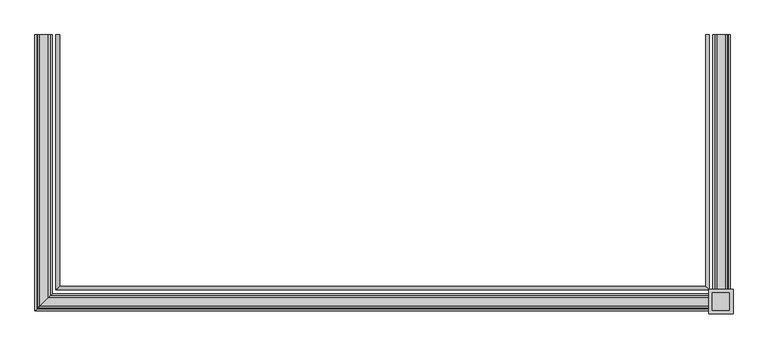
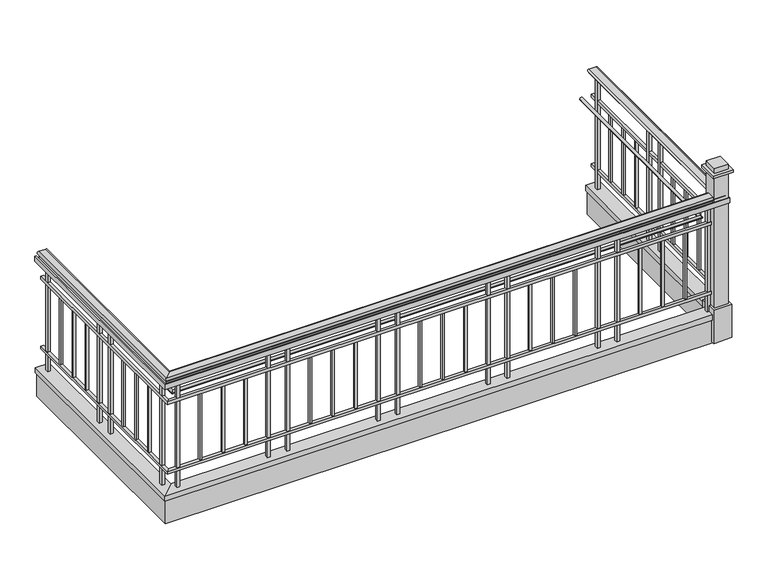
"""IFC4 building model written with IfcOpenShell, lengths in millimetres: railing geometry, Deco Type."""

from ifc_helpers import new_model, si_unit, frame, origin, place, context, project, spatial, polyline, circle_curve, ellipse_curve, outline, extrude, faceted_brep, source, transform, mapped, element, save
from ifc_brep_helpers import plane_surface, cylinder_surface, advanced_brep


def railing_172432e5(model_context):
    return source(origin(), model_context, "Body", "SolidModel", [
        advanced_brep(
        [(-11325.7002872, -7864.1661799, 7194.55), (-11325.7002872, -7864.1661799, 7172.3248415), (-11325.7002872, -7864.1661799, 7162.8), (-11389.0500398, -7864.1661799, 7162.8), (-11389.0500398, -7864.1661799, 7172.261629), (-11389.0500398, -7864.1661799, 7194.55), (-11325.7002872, -9707.4039273, 7194.55), (-11325.7002872, -9707.4039273, 7172.3248415), (-11325.7002872, -9707.4039273, 7162.8), (-11389.0500398, -9770.7536799, 7162.8), (-11389.0500398, -9770.7536799, 7172.261629), (-11389.0500398, -9770.7536799, 7194.55), (-6640.6872924, -9707.4039273, 7194.55), (-6640.6872924, -9707.4039273, 7172.3248415), (-6640.6872924, -9707.4039273, 7162.8), (-6577.3375398, -9770.7536799, 7162.8), (-6577.3375398, -9770.7536799, 7172.261629), (-6577.3375398, -9770.7536799, 7194.55), (-6640.6872924, -7864.1661799, 7194.55), (-6577.3375398, -7864.1661799, 7194.55), (-6577.3375398, -7864.1661799, 7172.261629), (-6577.3375398, -7864.1661799, 7162.8), (-6640.6872924, -7864.1661799, 7162.8), (-6640.6872924, -7864.1661799, 7172.3248415)],
        [
            (0, 1, circle_curve(frame((-11325.7002872, -7864.1661799, 7183.4374207), z_axis=(0.0, 1.0, 0.0), x_axis=(-1.0, 0.0, 0.0)), 11.1125793)),
            (1, 2),
            (2, 3),
            (3, 4),
            (4, 5, circle_curve(frame((-11389.0500398, -7864.1661799, 7183.4058145), z_axis=(0.0, 1.0, 0.0), x_axis=(-1.0, 0.0, 0.0)), 11.1441855)),
            (5, 0),
            (0, 6),
            (6, 7, ellipse_curve(frame((-11325.7002872, -9707.4039273, 7183.4374207), z_axis=(-0.7071067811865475, 0.7071067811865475, 0.0), x_axis=(0.7071067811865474, 0.7071067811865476, 0.0)), 15.7155603, 11.1125793)),
            (7, 1),
            (7, 8),
            (8, 2),
            (8, 9),
            (9, 3),
            (9, 10),
            (10, 4),
            (10, 11, ellipse_curve(frame((-11389.0500398, -9770.7536799, 7183.4058145), z_axis=(-0.7071067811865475, 0.7071067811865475, 0.0), x_axis=(0.7071067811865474, 0.7071067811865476, 0.0)), 15.7602583, 11.1441855)),
            (11, 5),
            (11, 6),
            (6, 12),
            (12, 13, ellipse_curve(frame((-6640.6872924, -9707.4039273, 7183.4374207), z_axis=(-0.7071067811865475, -0.7071067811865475, 0.0), x_axis=(-0.7071067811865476, 0.7071067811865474, 0.0)), 15.7155603, 11.1125793)),
            (13, 7),
            (13, 14),
            (14, 8),
            (14, 15),
            (15, 9),
            (15, 16),
            (16, 10),
            (16, 17, ellipse_curve(frame((-6577.3375398, -9770.7536799, 7183.4058145), z_axis=(-0.7071067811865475, -0.7071067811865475, 0.0), x_axis=(-0.7071067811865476, 0.7071067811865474, 0.0)), 15.7602583, 11.1441855)),
            (17, 11),
            (17, 12),
            (18, 19),
            (19, 20, circle_curve(frame((-6577.3375398, -7864.1661799, 7183.4058145), z_axis=(0.0, 1.0, 0.0), x_axis=(1.0, 0.0, 0.0)), 11.1441855)),
            (20, 21),
            (21, 22),
            (22, 23),
            (23, 18, circle_curve(frame((-6640.6872924, -7864.1661799, 7183.4374207), z_axis=(0.0, 1.0, 0.0), x_axis=(1.0, 0.0, 0.0)), 11.1125793)),
            (12, 18),
            (23, 13),
            (22, 14),
            (21, 15),
            (20, 16),
            (19, 17),
        ],
        [
            plane_surface(frame((-11357.3000398, -7864.1661799, 7162.8), z_axis=(0.0, 1.0, 0.0), x_axis=(0.0, 0.0, -1.0))),
            cylinder_surface(frame((-11325.7002872, -7864.1661799, 7183.4374207), z_axis=(0.0, 1.0, 0.0), x_axis=(-1.0, 0.0, 0.0)), 11.1125793),
            plane_surface(frame((-11325.7002872, -7864.1661799, 7172.3248415), z_axis=(1.0, 0.0, 0.0), x_axis=(0.0, -1.0, 0.0))),
            plane_surface(frame((-11325.7002872, -7864.1661799, 7162.8), z_axis=(0.0, 0.0, -1.0), x_axis=(0.0, -1.0, 0.0))),
            plane_surface(frame((-11389.0500398, -7864.1661799, 7162.8), z_axis=(-1.0, 0.0, 0.0), x_axis=(0.0, -1.0, 0.0))),
            cylinder_surface(frame((-11389.0500398, -7864.1661799, 7183.4058145), z_axis=(0.0, 1.0, 0.0), x_axis=(-1.0, 0.0, 0.0)), 11.1441855),
            plane_surface(frame((-11389.0500398, -7864.1661799, 7194.55), z_axis=(0.0, 0.0, 1.0), x_axis=(0.0, -1.0, 0.0))),
            cylinder_surface(frame((-11357.3000398, -9707.4039273, 7183.4374207), z_axis=(-1.0, 0.0, 0.0), x_axis=(0.0, -1.0, 0.0)), 11.1125793),
            plane_surface(frame((-11325.7002872, -9707.4039273, 7172.3248415), z_axis=(0.0, 1.0, 0.0), x_axis=(1.0, 0.0, 0.0))),
            plane_surface(frame((-11325.7002872, -9707.4039273, 7162.8), z_axis=(0.0, 0.0, -1.0), x_axis=(1.0, 0.0, 0.0))),
            plane_surface(frame((-11389.0500398, -9770.7536799, 7162.8), z_axis=(0.0, -1.0, 0.0), x_axis=(1.0, 0.0, 0.0))),
            cylinder_surface(frame((-11357.3000398, -9770.7536799, 7183.4058145), z_axis=(-1.0, 0.0, 0.0), x_axis=(0.0, -1.0, 0.0)), 11.1441855),
            plane_surface(frame((-11389.0500398, -9770.7536799, 7194.55), z_axis=(0.0, 0.0, 1.0), x_axis=(1.0, 0.0, 0.0))),
            plane_surface(frame((-6609.0875398, -7864.1661799, 7162.8), z_axis=(0.0, 1.0, 0.0), x_axis=(0.0, 0.0, 1.0))),
            cylinder_surface(frame((-6640.6872924, -9739.0036799, 7183.4374207), z_axis=(0.0, -1.0, 0.0), x_axis=(1.0, 0.0, 0.0)), 11.1125793),
            plane_surface(frame((-6640.6872924, -9707.4039273, 7172.3248415), z_axis=(-1.0, 0.0, 0.0), x_axis=(0.0, 1.0, 0.0))),
            plane_surface(frame((-6640.6872924, -9707.4039273, 7162.8), z_axis=(0.0, 0.0, -1.0), x_axis=(0.0, 1.0, 0.0))),
            plane_surface(frame((-6577.3375398, -9770.7536799, 7162.8), z_axis=(1.0, 0.0, 0.0), x_axis=(0.0, 1.0, 0.0))),
            cylinder_surface(frame((-6577.3375398, -9739.0036799, 7183.4058145), z_axis=(0.0, -1.0, 0.0), x_axis=(1.0, 0.0, 0.0)), 11.1441855),
            plane_surface(frame((-6577.3375398, -9770.7536799, 7194.55), z_axis=(0.0, 0.0, 1.0), x_axis=(0.0, 1.0, 0.0))),
        ],
        [
            (0, [[1, 2, 3, 4, 5, 6]]),
            (1, [[-1, 7, 8, 9]]),
            (2, [[-2, -9, 10, 11]]),
            (3, [[-3, -11, 12, 13]]),
            (4, [[-4, -13, 14, 15]]),
            (5, [[-5, -15, 16, 17]]),
            (6, [[-6, -17, 18, -7]]),
            (7, [[-8, 19, 20, 21]]),
            (8, [[-10, -21, 22, 23]]),
            (9, [[-12, -23, 24, 25]]),
            (10, [[-14, -25, 26, 27]]),
            (11, [[-16, -27, 28, 29]]),
            (12, [[-18, -29, 30, -19]]),
            (13, [[31, 32, 33, 34, 35, 36]]),
            (14, [[-20, 37, -36, 38]]),
            (15, [[-22, -38, -35, 39]]),
            (16, [[-24, -39, -34, 40]]),
            (17, [[-26, -40, -33, 41]]),
            (18, [[-28, -41, -32, 42]]),
            (19, [[-30, -42, -31, -37]]),
        ],
    ),
        faceted_brep([(-11382.7751635, -7864.1661799, 7162.8), (-11370.0751635, -7864.1661799, 7162.8), (-11370.0751635, -7864.1661799, 7118.35), (-11382.7751635, -7864.1661799, 7118.35), (-11382.7751635, -9764.4788036, 7162.8), (-11370.0751635, -9751.7788036, 7162.8), (-11370.0751635, -9751.7788036, 7118.35), (-11382.7751635, -9764.4788036, 7118.35), (-6583.6124161, -9764.4788036, 7162.8), (-6596.3124161, -9751.7788036, 7162.8), (-6596.3124161, -9751.7788036, 7118.35), (-6583.6124161, -9764.4788036, 7118.35), (-6583.6124161, -7864.1661799, 7162.8), (-6583.6124161, -7864.1661799, 7118.35), (-6596.3124161, -7864.1661799, 7118.35), (-6596.3124161, -7864.1661799, 7162.8)], [[[0, 1, 2, 3]], [[1, 0, 4, 5]], [[2, 1, 5, 6]], [[3, 2, 6, 7]], [[0, 3, 7, 4]], [[5, 4, 8, 9]], [[6, 5, 9, 10]], [[7, 6, 10, 11]], [[4, 7, 11, 8]], [[12, 13, 14, 15]], [[9, 8, 12, 15]], [[10, 9, 15, 14]], [[11, 10, 14, 13]], [[8, 11, 13, 12]]]),
        faceted_brep([(-11420.8751635, -7864.1661799, 7162.8), (-11408.1751635, -7864.1661799, 7162.8), (-11408.1751635, -7864.1661799, 7118.35), (-11420.8751635, -7864.1661799, 7118.35), (-11420.8751635, -9802.5788036, 7162.8), (-11408.1751635, -9789.8788036, 7162.8), (-11408.1751635, -9789.8788036, 7118.35), (-11420.8751635, -9802.5788036, 7118.35), (-6545.5124161, -9802.5788036, 7162.8), (-6558.2124161, -9789.8788036, 7162.8), (-6558.2124161, -9789.8788036, 7118.35), (-6545.5124161, -9802.5788036, 7118.35), (-6545.5124161, -7864.1661799, 7162.8), (-6545.5124161, -7864.1661799, 7118.35), (-6558.2124161, -7864.1661799, 7118.35), (-6558.2124161, -7864.1661799, 7162.8)], [[[0, 1, 2, 3]], [[1, 0, 4, 5]], [[2, 1, 5, 6]], [[3, 2, 6, 7]], [[0, 3, 7, 4]], [[5, 4, 8, 9]], [[6, 5, 9, 10]], [[7, 6, 10, 11]], [[4, 7, 11, 8]], [[12, 13, 14, 15]], [[9, 8, 12, 15]], [[10, 9, 15, 14]], [[11, 10, 14, 13]], [[8, 11, 13, 12]]]),
        faceted_brep([(-11370.0000398, -7864.1661799, 6959.6), (-11344.6000398, -7864.1661799, 6959.6), (-11344.6000398, -7864.1661799, 6934.2), (-11370.0000398, -7864.1661799, 6934.2), (-11370.0000398, -9751.7036799, 6959.6), (-11344.6000398, -9726.3036799, 6959.6), (-11344.6000398, -9726.3036799, 6934.2), (-11370.0000398, -9751.7036799, 6934.2), (-6596.3875398, -9751.7036799, 6959.6), (-6621.7875398, -9726.3036799, 6959.6), (-6621.7875398, -9726.3036799, 6934.2), (-6596.3875398, -9751.7036799, 6934.2), (-6596.3875398, -7864.1661799, 6959.6), (-6596.3875398, -7864.1661799, 6934.2), (-6621.7875398, -7864.1661799, 6934.2), (-6621.7875398, -7864.1661799, 6959.6)], [[[0, 1, 2, 3]], [[1, 0, 4, 5]], [[2, 1, 5, 6]], [[3, 2, 6, 7]], [[0, 3, 7, 4]], [[5, 4, 8, 9]], [[6, 5, 9, 10]], [[7, 6, 10, 11]], [[4, 7, 11, 8]], [[12, 13, 14, 15]], [[9, 8, 12, 15]], [[10, 9, 15, 14]], [[11, 10, 14, 13]], [[8, 11, 13, 12]]]),
        advanced_brep(
        [(-11247.7625398, -7864.1661799, 6946.9), (-11273.1625398, -7864.1661799, 6946.9), (-11247.7625398, -9629.4661799, 6946.9), (-11273.1625398, -9654.8661799, 6946.9), (-6718.6250398, -9629.4661799, 6946.9), (-6693.2250398, -9654.8661799, 6946.9), (-6718.6250398, -7864.1661799, 6946.9), (-6693.2250398, -7864.1661799, 6946.9)],
        [
            (0, 1, circle_curve(frame((-11260.4625398, -7864.1661799, 6946.9), z_axis=(0.0, 1.0, 0.0), x_axis=(-1.0, 0.0, 0.0)), 12.7)),
            (1, 0, circle_curve(frame((-11260.4625398, -7864.1661799, 6946.9), z_axis=(0.0, 1.0, 0.0), x_axis=(-1.0, 0.0, 0.0)), 12.7)),
            (0, 2),
            (2, 3, ellipse_curve(frame((-11260.4625398, -9642.1661799, 6946.9), z_axis=(-0.7071067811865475, 0.7071067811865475, 0.0), x_axis=(0.7071067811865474, 0.7071067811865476, 0.0)), 17.9605122, 12.7)),
            (3, 1),
            (3, 2, ellipse_curve(frame((-11260.4625398, -9642.1661799, 6946.9), z_axis=(-0.7071067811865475, 0.7071067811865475, 0.0), x_axis=(0.7071067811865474, 0.7071067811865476, 0.0)), 17.9605122, 12.7)),
            (2, 4),
            (4, 5, ellipse_curve(frame((-6705.9250398, -9642.1661799, 6946.9), z_axis=(-0.7071067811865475, -0.7071067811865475, 0.0), x_axis=(-0.7071067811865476, 0.7071067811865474, 0.0)), 17.9605122, 12.7)),
            (5, 3),
            (5, 4, ellipse_curve(frame((-6705.9250398, -9642.1661799, 6946.9), z_axis=(-0.7071067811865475, -0.7071067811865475, 0.0), x_axis=(-0.7071067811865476, 0.7071067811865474, 0.0)), 17.9605122, 12.7)),
            (6, 7, circle_curve(frame((-6705.9250398, -7864.1661799, 6946.9), z_axis=(0.0, 1.0, 0.0), x_axis=(1.0, 0.0, 0.0)), 12.7)),
            (7, 6, circle_curve(frame((-6705.9250398, -7864.1661799, 6946.9), z_axis=(0.0, 1.0, 0.0), x_axis=(1.0, 0.0, 0.0)), 12.7)),
            (4, 6),
            (7, 5),
        ],
        [
            plane_surface(frame((-11260.4625398, -7864.1661799, 6946.9), z_axis=(0.0, 1.0, 0.0), x_axis=(0.0, 0.0, -1.0))),
            cylinder_surface(frame((-11260.4625398, -7864.1661799, 6946.9), z_axis=(0.0, 1.0, 0.0), x_axis=(-1.0, 0.0, 0.0)), 12.7),
            cylinder_surface(frame((-11260.4625398, -9642.1661799, 6946.9), z_axis=(-1.0, 0.0, 0.0), x_axis=(0.0, -1.0, 0.0)), 12.7),
            plane_surface(frame((-6705.9250398, -7864.1661799, 6946.9), z_axis=(0.0, 1.0, 0.0), x_axis=(0.0, 0.0, 1.0))),
            cylinder_surface(frame((-6705.9250398, -9642.1661799, 6946.9), z_axis=(0.0, -1.0, 0.0), x_axis=(1.0, 0.0, 0.0)), 12.7),
        ],
        [
            (0, [[1, 2]]),
            (1, [[-1, 3, 4, 5]]),
            (1, [[-2, -5, 6, -3]]),
            (2, [[-4, 7, 8, 9]]),
            (2, [[-6, -9, 10, -7]]),
            (3, [[11, 12]]),
            (4, [[-8, 13, -12, 14]]),
            (4, [[-10, -14, -11, -13]]),
        ],
    ),
        faceted_brep([(-11370.0000398, -7864.1661799, 6324.6), (-11344.6000398, -7864.1661799, 6324.6), (-11344.6000398, -7864.1661799, 6299.2), (-11370.0000398, -7864.1661799, 6299.2), (-11370.0000398, -9751.7036799, 6324.6), (-11344.6000398, -9726.3036799, 6324.6), (-11344.6000398, -9726.3036799, 6299.2), (-11370.0000398, -9751.7036799, 6299.2), (-6596.3875398, -9751.7036799, 6324.6), (-6621.7875398, -9726.3036799, 6324.6), (-6621.7875398, -9726.3036799, 6299.2), (-6596.3875398, -9751.7036799, 6299.2), (-6596.3875398, -7864.1661799, 6324.6), (-6596.3875398, -7864.1661799, 6299.2), (-6621.7875398, -7864.1661799, 6299.2), (-6621.7875398, -7864.1661799, 6324.6)], [[[0, 1, 2, 3]], [[1, 0, 4, 5]], [[2, 1, 5, 6]], [[3, 2, 6, 7]], [[0, 3, 7, 4]], [[5, 4, 8, 9]], [[6, 5, 9, 10]], [[7, 6, 10, 11]], [[4, 7, 11, 8]], [[12, 13, 14, 15]], [[9, 8, 12, 15]], [[10, 9, 15, 14]], [[11, 10, 14, 13]], [[8, 11, 13, 12]]]),
        faceted_brep([(-11298.6376635, -7864.1661799, 6145.0362864), (-11298.6376635, -7864.1661799, 6096.0), (-11311.3376635, -7864.1661799, 6096.0), (-11311.3376635, -7864.1661799, 6132.3362864), (-11403.4126635, -7864.1661799, 6132.3362864), (-11403.4126635, -7864.1661799, 6096.0), (-11416.1126635, -7864.1661799, 6096.0), (-11416.1126635, -7864.1661799, 6145.0362864), (-11298.6376635, -9680.3413036, 6145.0362864), (-11298.6376635, -9680.3413036, 6096.0), (-11311.3376635, -9693.0413036, 6096.0), (-11311.3376635, -9693.0413036, 6132.3362864), (-11403.4126635, -9785.1163036, 6132.3362864), (-11403.4126635, -9785.1163036, 6096.0), (-11416.1126635, -9797.8163036, 6096.0), (-11416.1126635, -9797.8163036, 6145.0362864), (-6667.7499161, -9680.3413036, 6145.0362864), (-6667.7499161, -9680.3413036, 6096.0), (-6655.0499161, -9693.0413036, 6096.0), (-6655.0499161, -9693.0413036, 6132.3362864), (-6562.9749161, -9785.1163036, 6132.3362864), (-6562.9749161, -9785.1163036, 6096.0), (-6550.2749161, -9797.8163036, 6096.0), (-6550.2749161, -9797.8163036, 6145.0362864), (-6667.7499161, -7864.1661799, 6145.0362864), (-6550.2749161, -7864.1661799, 6145.0362864), (-6550.2749161, -7864.1661799, 6096.0), (-6562.9749161, -7864.1661799, 6096.0), (-6562.9749161, -7864.1661799, 6132.3362864), (-6655.0499161, -7864.1661799, 6132.3362864), (-6655.0499161, -7864.1661799, 6096.0), (-6667.7499161, -7864.1661799, 6096.0)], [[[0, 1, 2, 3, 4, 5, 6, 7]], [[1, 0, 8, 9]], [[2, 1, 9, 10]], [[3, 2, 10, 11]], [[4, 3, 11, 12]], [[5, 4, 12, 13]], [[6, 5, 13, 14]], [[7, 6, 14, 15]], [[0, 7, 15, 8]], [[9, 8, 16, 17]], [[10, 9, 17, 18]], [[11, 10, 18, 19]], [[12, 11, 19, 20]], [[13, 12, 20, 21]], [[14, 13, 21, 22]], [[15, 14, 22, 23]], [[8, 15, 23, 16]], [[24, 25, 26, 27, 28, 29, 30, 31]], [[17, 16, 24, 31]], [[18, 17, 31, 30]], [[19, 18, 30, 29]], [[20, 19, 29, 28]], [[21, 20, 28, 27]], [[22, 21, 27, 26]], [[23, 22, 26, 25]], [[16, 23, 25, 24]]]),
        faceted_brep([(-11311.3376635, -7864.1661799, 6132.3362864), (-11311.3376635, -7864.1661799, 5878.3362864), (-11403.4126635, -7864.1661799, 5878.3362864), (-11403.4126635, -7864.1661799, 6132.3362864), (-11311.3376635, -9693.0413036, 6132.3362864), (-11311.3376635, -9693.0413036, 5878.3362864), (-11403.4126635, -9785.1163036, 5878.3362864), (-11403.4126635, -9785.1163036, 6132.3362864), (-6655.0499161, -9693.0413036, 6132.3362864), (-6655.0499161, -9693.0413036, 5878.3362864), (-6562.9749161, -9785.1163036, 5878.3362864), (-6562.9749161, -9785.1163036, 6132.3362864), (-6655.0499161, -7864.1661799, 6132.3362864), (-6562.9749161, -7864.1661799, 6132.3362864), (-6562.9749161, -7864.1661799, 5878.3362864), (-6655.0499161, -7864.1661799, 5878.3362864)], [[[0, 1, 2, 3]], [[1, 0, 4, 5]], [[2, 1, 5, 6]], [[3, 2, 6, 7]], [[0, 3, 7, 4]], [[5, 4, 8, 9]], [[6, 5, 9, 10]], [[7, 6, 10, 11]], [[4, 7, 11, 8]], [[12, 13, 14, 15]], [[9, 8, 12, 15]], [[10, 9, 15, 14]], [[11, 10, 14, 13]], [[8, 11, 13, 12]]]),
        extrude(outline(polyline([(-6599.1656648, -7959.4570347), (-6624.5656648, -7959.4570347), (-6624.5656648, -7934.0570347), (-6599.1656648, -7934.0570347), (-6599.1656648, -7959.4570347)])), frame((0.0, 0.0, 6145.0362864), z_axis=(0.0, 0.0, 1.0), x_axis=(1.0, 0.0, 0.0)), (0.0, 0.0, 1.0), 1017.7637136),
        extrude(outline(polyline([(-6602.3406648, -8148.9940292), (-6621.3906648, -8148.9940292), (-6621.3906648, -8129.9440292), (-6602.3406648, -8129.9440292), (-6602.3406648, -8148.9940292)])), frame((0.0, 0.0, 6324.6), z_axis=(0.0, 0.0, 1.0), x_axis=(1.0, 0.0, 0.0)), (0.0, 0.0, 1.0), 609.6),
        extrude(outline(polyline([(-6602.3406648, -8341.7060237), (-6621.3906648, -8341.7060237), (-6621.3906648, -8322.6560237), (-6602.3406648, -8322.6560237), (-6602.3406648, -8341.7060237)])), frame((0.0, 0.0, 6324.6), z_axis=(0.0, 0.0, 1.0), x_axis=(1.0, 0.0, 0.0)), (0.0, 0.0, 1.0), 609.6),
        extrude(outline(polyline([(-6602.3406648, -8534.4180182), (-6621.3906648, -8534.4180182), (-6621.3906648, -8515.3680182), (-6602.3406648, -8515.3680182), (-6602.3406648, -8534.4180182)])), frame((0.0, 0.0, 6324.6), z_axis=(0.0, 0.0, 1.0), x_axis=(1.0, 0.0, 0.0)), (0.0, 0.0, 1.0), 609.6),
        extrude(outline(polyline([(-6599.1656648, -8730.3050126), (-6624.5656648, -8730.3050126), (-6624.5656648, -8704.9050126), (-6599.1656648, -8704.9050126), (-6599.1656648, -8730.3050126)])), frame((0.0, 0.0, 6145.0362864), z_axis=(0.0, 0.0, 1.0), x_axis=(1.0, 0.0, 0.0)), (0.0, 0.0, 1.0), 1017.7637136),
        extrude(outline(polyline([(-6599.1656648, -8895.4867222), (-6624.5656648, -8895.4867222), (-6624.5656648, -8870.0867222), (-6599.1656648, -8870.0867222), (-6599.1656648, -8895.4867222)])), frame((0.0, 0.0, 6145.0362864), z_axis=(0.0, 0.0, 1.0), x_axis=(1.0, 0.0, 0.0)), (0.0, 0.0, 1.0), 1017.7637136),
        extrude(outline(polyline([(-6602.3406648, -9085.0237167), (-6621.3906648, -9085.0237167), (-6621.3906648, -9065.9737167), (-6602.3406648, -9065.9737167), (-6602.3406648, -9085.0237167)])), frame((0.0, 0.0, 6324.6), z_axis=(0.0, 0.0, 1.0), x_axis=(1.0, 0.0, 0.0)), (0.0, 0.0, 1.0), 609.6),
        extrude(outline(polyline([(-6602.3406648, -9277.7357112), (-6621.3906648, -9277.7357112), (-6621.3906648, -9258.6857112), (-6602.3406648, -9258.6857112), (-6602.3406648, -9277.7357112)])), frame((0.0, 0.0, 6324.6), z_axis=(0.0, 0.0, 1.0), x_axis=(1.0, 0.0, 0.0)), (0.0, 0.0, 1.0), 609.6),
        extrude(outline(polyline([(-6602.3406648, -9470.4477057), (-6621.3906648, -9470.4477057), (-6621.3906648, -9451.3977057), (-6602.3406648, -9451.3977057), (-6602.3406648, -9470.4477057)])), frame((0.0, 0.0, 6324.6), z_axis=(0.0, 0.0, 1.0), x_axis=(1.0, 0.0, 0.0)), (0.0, 0.0, 1.0), 609.6),
        extrude(outline(polyline([(-6599.1656648, -9666.3347001), (-6624.5656648, -9666.3347001), (-6624.5656648, -9640.9347001), (-6599.1656648, -9640.9347001), (-6599.1656648, -9666.3347001)])), frame((0.0, 0.0, 6145.0362864), z_axis=(0.0, 0.0, 1.0), x_axis=(1.0, 0.0, 0.0)), (0.0, 0.0, 1.0), 1017.7637136),
        extrude(outline(polyline([(-6708.2595986, -9748.9255549), (-6708.2595986, -9723.5255549), (-6682.8595986, -9723.5255549), (-6682.8595986, -9748.9255549), (-6708.2595986, -9748.9255549)])), frame((0.0, 0.0, 6145.0362864), z_axis=(0.0, 0.0, 1.0), x_axis=(1.0, 0.0, 0.0)), (0.0, 0.0, 1.0), 1017.7637136),
        extrude(outline(polyline([(-6900.3704442, -9745.7505549), (-6900.3704442, -9726.7005549), (-6881.3204442, -9726.7005549), (-6881.3204442, -9745.7505549), (-6900.3704442, -9745.7505549)])), frame((0.0, 0.0, 6324.6), z_axis=(0.0, 0.0, 1.0), x_axis=(1.0, 0.0, 0.0)), (0.0, 0.0, 1.0), 609.6),
        extrude(outline(polyline([(-7095.6562898, -9745.7505549), (-7095.6562898, -9726.7005549), (-7076.6062898, -9726.7005549), (-7076.6062898, -9745.7505549), (-7095.6562898, -9745.7505549)])), frame((0.0, 0.0, 6324.6), z_axis=(0.0, 0.0, 1.0), x_axis=(1.0, 0.0, 0.0)), (0.0, 0.0, 1.0), 609.6),
        extrude(outline(polyline([(-7290.9421354, -9745.7505549), (-7290.9421354, -9726.7005549), (-7271.8921354, -9726.7005549), (-7271.8921354, -9745.7505549), (-7290.9421354, -9745.7505549)])), frame((0.0, 0.0, 6324.6), z_axis=(0.0, 0.0, 1.0), x_axis=(1.0, 0.0, 0.0)), (0.0, 0.0, 1.0), 609.6),
        extrude(outline(polyline([(-7489.402981, -9748.9255549), (-7489.402981, -9723.5255549), (-7464.002981, -9723.5255549), (-7464.002981, -9748.9255549), (-7489.402981, -9748.9255549)])), frame((0.0, 0.0, 6145.0362864), z_axis=(0.0, 0.0, 1.0), x_axis=(1.0, 0.0, 0.0)), (0.0, 0.0, 1.0), 1017.7637136),
        extrude(outline(polyline([(-7656.7908486, -9748.9255549), (-7656.7908486, -9723.5255549), (-7631.3908486, -9723.5255549), (-7631.3908486, -9748.9255549), (-7656.7908486, -9748.9255549)])), frame((0.0, 0.0, 6145.0362864), z_axis=(0.0, 0.0, 1.0), x_axis=(1.0, 0.0, 0.0)), (0.0, 0.0, 1.0), 1017.7637136),
        extrude(outline(polyline([(-7848.9016942, -9745.7505549), (-7848.9016942, -9726.7005549), (-7829.8516942, -9726.7005549), (-7829.8516942, -9745.7505549), (-7848.9016942, -9745.7505549)])), frame((0.0, 0.0, 6324.6), z_axis=(0.0, 0.0, 1.0), x_axis=(1.0, 0.0, 0.0)), (0.0, 0.0, 1.0), 609.6),
        extrude(outline(polyline([(-8044.1875398, -9745.7505549), (-8044.1875398, -9726.7005549), (-8025.1375398, -9726.7005549), (-8025.1375398, -9745.7505549), (-8044.1875398, -9745.7505549)])), frame((0.0, 0.0, 6324.6), z_axis=(0.0, 0.0, 1.0), x_axis=(1.0, 0.0, 0.0)), (0.0, 0.0, 1.0), 609.6),
        extrude(outline(polyline([(-8239.4733854, -9745.7505549), (-8239.4733854, -9726.7005549), (-8220.4233854, -9726.7005549), (-8220.4233854, -9745.7505549), (-8239.4733854, -9745.7505549)])), frame((0.0, 0.0, 6324.6), z_axis=(0.0, 0.0, 1.0), x_axis=(1.0, 0.0, 0.0)), (0.0, 0.0, 1.0), 609.6),
        extrude(outline(polyline([(-8437.934231, -9748.9255549), (-8437.934231, -9723.5255549), (-8412.534231, -9723.5255549), (-8412.534231, -9748.9255549), (-8437.934231, -9748.9255549)])), frame((0.0, 0.0, 6145.0362864), z_axis=(0.0, 0.0, 1.0), x_axis=(1.0, 0.0, 0.0)), (0.0, 0.0, 1.0), 1017.7637136),
        extrude(outline(polyline([(-8605.3220986, -9748.9255549), (-8605.3220986, -9723.5255549), (-8579.9220986, -9723.5255549), (-8579.9220986, -9748.9255549), (-8605.3220986, -9748.9255549)])), frame((0.0, 0.0, 6145.0362864), z_axis=(0.0, 0.0, 1.0), x_axis=(1.0, 0.0, 0.0)), (0.0, 0.0, 1.0), 1017.7637136),
        extrude(outline(polyline([(-8797.4329442, -9745.7505549), (-8797.4329442, -9726.7005549), (-8778.3829442, -9726.7005549), (-8778.3829442, -9745.7505549), (-8797.4329442, -9745.7505549)])), frame((0.0, 0.0, 6324.6), z_axis=(0.0, 0.0, 1.0), x_axis=(1.0, 0.0, 0.0)), (0.0, 0.0, 1.0), 609.6),
        extrude(outline(polyline([(-8992.7187898, -9745.7505549), (-8992.7187898, -9726.7005549), (-8973.6687898, -9726.7005549), (-8973.6687898, -9745.7505549), (-8992.7187898, -9745.7505549)])), frame((0.0, 0.0, 6324.6), z_axis=(0.0, 0.0, 1.0), x_axis=(1.0, 0.0, 0.0)), (0.0, 0.0, 1.0), 609.6),
        extrude(outline(polyline([(-9188.0046354, -9745.7505549), (-9188.0046354, -9726.7005549), (-9168.9546354, -9726.7005549), (-9168.9546354, -9745.7505549), (-9188.0046354, -9745.7505549)])), frame((0.0, 0.0, 6324.6), z_axis=(0.0, 0.0, 1.0), x_axis=(1.0, 0.0, 0.0)), (0.0, 0.0, 1.0), 609.6),
        extrude(outline(polyline([(-9386.465481, -9748.9255549), (-9386.465481, -9723.5255549), (-9361.065481, -9723.5255549), (-9361.065481, -9748.9255549), (-9386.465481, -9748.9255549)])), frame((0.0, 0.0, 6145.0362864), z_axis=(0.0, 0.0, 1.0), x_axis=(1.0, 0.0, 0.0)), (0.0, 0.0, 1.0), 1017.7637136),
        extrude(outline(polyline([(-9553.8533486, -9748.9255549), (-9553.8533486, -9723.5255549), (-9528.4533486, -9723.5255549), (-9528.4533486, -9748.9255549), (-9553.8533486, -9748.9255549)])), frame((0.0, 0.0, 6145.0362864), z_axis=(0.0, 0.0, 1.0), x_axis=(1.0, 0.0, 0.0)), (0.0, 0.0, 1.0), 1017.7637136),
        extrude(outline(polyline([(-9745.9641942, -9745.7505549), (-9745.9641942, -9726.7005549), (-9726.9141942, -9726.7005549), (-9726.9141942, -9745.7505549), (-9745.9641942, -9745.7505549)])), frame((0.0, 0.0, 6324.6), z_axis=(0.0, 0.0, 1.0), x_axis=(1.0, 0.0, 0.0)), (0.0, 0.0, 1.0), 609.6),
        extrude(outline(polyline([(-9941.2500398, -9745.7505549), (-9941.2500398, -9726.7005549), (-9922.2000398, -9726.7005549), (-9922.2000398, -9745.7505549), (-9941.2500398, -9745.7505549)])), frame((0.0, 0.0, 6324.6), z_axis=(0.0, 0.0, 1.0), x_axis=(1.0, 0.0, 0.0)), (0.0, 0.0, 1.0), 609.6),
        extrude(outline(polyline([(-10136.5358854, -9745.7505549), (-10136.5358854, -9726.7005549), (-10117.4858854, -9726.7005549), (-10117.4858854, -9745.7505549), (-10136.5358854, -9745.7505549)])), frame((0.0, 0.0, 6324.6), z_axis=(0.0, 0.0, 1.0), x_axis=(1.0, 0.0, 0.0)), (0.0, 0.0, 1.0), 609.6),
        extrude(outline(polyline([(-10334.996731, -9748.9255549), (-10334.996731, -9723.5255549), (-10309.596731, -9723.5255549), (-10309.596731, -9748.9255549), (-10334.996731, -9748.9255549)])), frame((0.0, 0.0, 6145.0362864), z_axis=(0.0, 0.0, 1.0), x_axis=(1.0, 0.0, 0.0)), (0.0, 0.0, 1.0), 1017.7637136),
        extrude(outline(polyline([(-10502.3845986, -9748.9255549), (-10502.3845986, -9723.5255549), (-10476.9845986, -9723.5255549), (-10476.9845986, -9748.9255549), (-10502.3845986, -9748.9255549)])), frame((0.0, 0.0, 6145.0362864), z_axis=(0.0, 0.0, 1.0), x_axis=(1.0, 0.0, 0.0)), (0.0, 0.0, 1.0), 1017.7637136),
        extrude(outline(polyline([(-10694.4954442, -9745.7505549), (-10694.4954442, -9726.7005549), (-10675.4454442, -9726.7005549), (-10675.4454442, -9745.7505549), (-10694.4954442, -9745.7505549)])), frame((0.0, 0.0, 6324.6), z_axis=(0.0, 0.0, 1.0), x_axis=(1.0, 0.0, 0.0)), (0.0, 0.0, 1.0), 609.6),
        extrude(outline(polyline([(-10889.7812898, -9745.7505549), (-10889.7812898, -9726.7005549), (-10870.7312898, -9726.7005549), (-10870.7312898, -9745.7505549), (-10889.7812898, -9745.7505549)])), frame((0.0, 0.0, 6324.6), z_axis=(0.0, 0.0, 1.0), x_axis=(1.0, 0.0, 0.0)), (0.0, 0.0, 1.0), 609.6),
        extrude(outline(polyline([(-11085.0671354, -9745.7505549), (-11085.0671354, -9726.7005549), (-11066.0171354, -9726.7005549), (-11066.0171354, -9745.7505549), (-11085.0671354, -9745.7505549)])), frame((0.0, 0.0, 6324.6), z_axis=(0.0, 0.0, 1.0), x_axis=(1.0, 0.0, 0.0)), (0.0, 0.0, 1.0), 609.6),
        extrude(outline(polyline([(-11283.527981, -9748.9255549), (-11283.527981, -9723.5255549), (-11258.127981, -9723.5255549), (-11258.127981, -9748.9255549), (-11283.527981, -9748.9255549)])), frame((0.0, 0.0, 6145.0362864), z_axis=(0.0, 0.0, 1.0), x_axis=(1.0, 0.0, 0.0)), (0.0, 0.0, 1.0), 1017.7637136),
        extrude(outline(polyline([(-11367.2219148, -9640.9347001), (-11341.8219148, -9640.9347001), (-11341.8219148, -9666.3347001), (-11367.2219148, -9666.3347001), (-11367.2219148, -9640.9347001)])), frame((0.0, 0.0, 6145.0362864), z_axis=(0.0, 0.0, 1.0), x_axis=(1.0, 0.0, 0.0)), (0.0, 0.0, 1.0), 1017.7637136),
        extrude(outline(polyline([(-11364.0469148, -9451.3977057), (-11344.9969148, -9451.3977057), (-11344.9969148, -9470.4477057), (-11364.0469148, -9470.4477057), (-11364.0469148, -9451.3977057)])), frame((0.0, 0.0, 6324.6), z_axis=(0.0, 0.0, 1.0), x_axis=(1.0, 0.0, 0.0)), (0.0, 0.0, 1.0), 609.6),
        extrude(outline(polyline([(-11364.0469148, -9258.6857112), (-11344.9969148, -9258.6857112), (-11344.9969148, -9277.7357112), (-11364.0469148, -9277.7357112), (-11364.0469148, -9258.6857112)])), frame((0.0, 0.0, 6324.6), z_axis=(0.0, 0.0, 1.0), x_axis=(1.0, 0.0, 0.0)), (0.0, 0.0, 1.0), 609.6),
        extrude(outline(polyline([(-11364.0469148, -9065.9737167), (-11344.9969148, -9065.9737167), (-11344.9969148, -9085.0237167), (-11364.0469148, -9085.0237167), (-11364.0469148, -9065.9737167)])), frame((0.0, 0.0, 6324.6), z_axis=(0.0, 0.0, 1.0), x_axis=(1.0, 0.0, 0.0)), (0.0, 0.0, 1.0), 609.6),
        extrude(outline(polyline([(-11367.2219148, -8870.0867222), (-11341.8219148, -8870.0867222), (-11341.8219148, -8895.4867222), (-11367.2219148, -8895.4867222), (-11367.2219148, -8870.0867222)])), frame((0.0, 0.0, 6145.0362864), z_axis=(0.0, 0.0, 1.0), x_axis=(1.0, 0.0, 0.0)), (0.0, 0.0, 1.0), 1017.7637136),
        extrude(outline(polyline([(-11367.2219148, -8704.9050126), (-11341.8219148, -8704.9050126), (-11341.8219148, -8730.3050126), (-11367.2219148, -8730.3050126), (-11367.2219148, -8704.9050126)])), frame((0.0, 0.0, 6145.0362864), z_axis=(0.0, 0.0, 1.0), x_axis=(1.0, 0.0, 0.0)), (0.0, 0.0, 1.0), 1017.7637136),
        extrude(outline(polyline([(-11364.0469148, -8515.3680182), (-11344.9969148, -8515.3680182), (-11344.9969148, -8534.4180182), (-11364.0469148, -8534.4180182), (-11364.0469148, -8515.3680182)])), frame((0.0, 0.0, 6324.6), z_axis=(0.0, 0.0, 1.0), x_axis=(1.0, 0.0, 0.0)), (0.0, 0.0, 1.0), 609.6),
        extrude(outline(polyline([(-11364.0469148, -8322.6560237), (-11344.9969148, -8322.6560237), (-11344.9969148, -8341.7060237), (-11364.0469148, -8341.7060237), (-11364.0469148, -8322.6560237)])), frame((0.0, 0.0, 6324.6), z_axis=(0.0, 0.0, 1.0), x_axis=(1.0, 0.0, 0.0)), (0.0, 0.0, 1.0), 609.6),
        extrude(outline(polyline([(-11364.0469148, -8129.9440292), (-11344.9969148, -8129.9440292), (-11344.9969148, -8148.9940292), (-11364.0469148, -8148.9940292), (-11364.0469148, -8129.9440292)])), frame((0.0, 0.0, 6324.6), z_axis=(0.0, 0.0, 1.0), x_axis=(1.0, 0.0, 0.0)), (0.0, 0.0, 1.0), 609.6),
        extrude(outline(polyline([(-11367.2219148, -7934.0570347), (-11341.8219148, -7934.0570347), (-11341.8219148, -7959.4570347), (-11367.2219148, -7959.4570347), (-11367.2219148, -7934.0570347)])), frame((0.0, 0.0, 6145.0362864), z_axis=(0.0, 0.0, 1.0), x_axis=(1.0, 0.0, 0.0)), (0.0, 0.0, 1.0), 1017.7637136),
        extrude(outline(polyline([(-6691.2406648, -9656.8505549), (-6532.4906648, -9656.8505549), (-6532.4906648, -9815.6005549), (-6691.2406648, -9815.6005549), (-6691.2406648, -9656.8505549)])), frame((0.0, 0.0, 5892.8), z_axis=(0.0, 0.0, 1.0), x_axis=(1.0, 0.0, 0.0)), (0.0, 0.0, 1.0), 304.8),
        extrude(outline(polyline([(-6672.1906648, -9675.9005549), (-6551.5406648, -9675.9005549), (-6551.5406648, -9796.5505549), (-6672.1906648, -9796.5505549), (-6672.1906648, -9675.9005549)])), frame((0.0, 0.0, 6197.6), z_axis=(0.0, 0.0, 1.0), x_axis=(1.0, 0.0, 0.0)), (0.0, 0.0, 1.0), 1270.0),
        extrude(outline(polyline([(-6697.5906648, -9821.9505549), (-6697.5906648, -9650.5005549), (-6526.1406648, -9650.5005549), (-6526.1406648, -9821.9505549), (-6697.5906648, -9821.9505549)]), holes=[polyline([(-6551.5406648, -9796.5505549), (-6551.5406648, -9675.9005549), (-6672.1906648, -9675.9005549), (-6672.1906648, -9796.5505549), (-6551.5406648, -9796.5505549)])]), frame((0.0, 0.0, 7400.925), z_axis=(0.0, 0.0, 1.0), x_axis=(1.0, 0.0, 0.0)), (0.0, 0.0, 1.0), 25.4),
    ])


if __name__ == "__main__":
    model = new_model("IFC4")
    model_context = context("Model", 3, world=origin())
    ifc_project = project(units=[si_unit("LENGTHUNIT", "METRE", prefix="MILLI")], contexts=[model_context])
    site = spatial("IfcSite", under=ifc_project)
    building = spatial("IfcBuilding", under=site)
    placement = place(None, origin())
    railing_shape = railing_172432e5(model_context)
    element("IfcRailing", 1, ObjectType="Deco Type", at=placement, inside=building, context=model_context, shape_type="MappedRepresentation", body=[
        mapped(railing_shape, transform((0.0, 0.0, 0.0), x_axis=(1.0, 0.0, 0.0), y_axis=(0.0, 1.0, 0.0), z_axis=(0.0, 0.0, 1.0))),
    ])
    save(model, "model.ifc")
